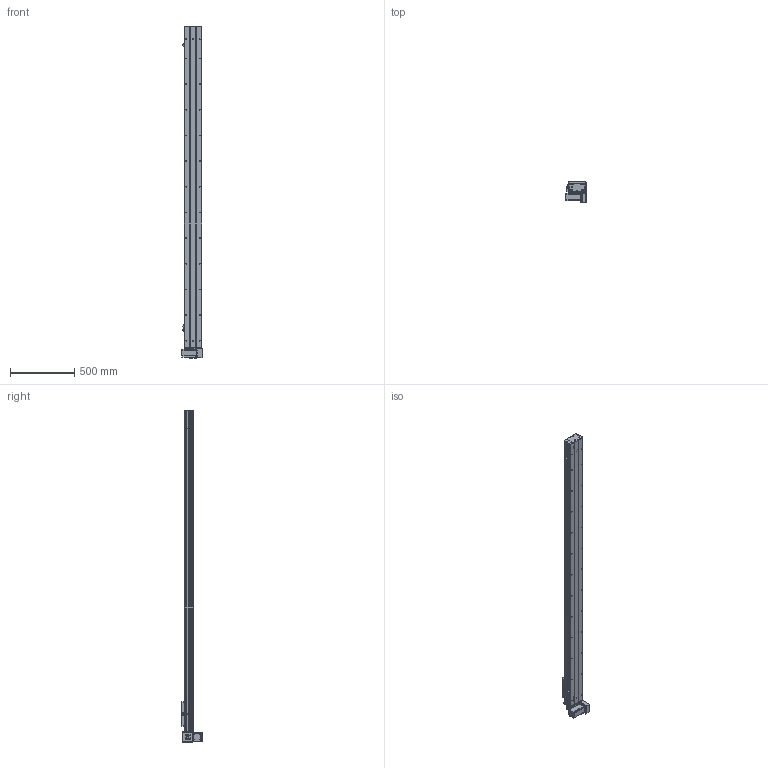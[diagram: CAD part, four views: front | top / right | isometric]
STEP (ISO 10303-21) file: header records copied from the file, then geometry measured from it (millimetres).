
FILE_DESCRIPTION (( 'STEP AP203' ), '1' );
FILE_NAME ('Y135CB-D90-S2200-BM-P400W.STEP', '2020-02-19T01:46:02', ( '微软用户' ), ( '微软中国' ), 'SwSTEP 2.0', 'SolidWorks 2017', '' );
FILE_SCHEMA (( 'CONFIG_CONTROL_DESIGN' ));
Length unit declared in the file: millimetre
Products named in the file (18): san松下电机400不带刹车----; 00B-俋欶BM--; 5CB --掛极耜裔啣-; Y10B-耜蚾蟀諉啣----; C-詩湍揤踡え-陔; Y135CB-耜裔; Y135CB-D90-S2200-BM-P400W; 135CB--詩湍-CE; 135CB---遴掛极.-; Y100-135俋离換覜ん--; 35CB---喘謫眊楊擘啣; Y135C-陔俋离換覜結え-; 0B-埴倛裔啣; 5C--俋欶; 0B-源倛裔啣; C-雄赽釱--; 0B-萇儂楊擘啣; Y10B--々湍喘謫眊--666
Assembly tree (21 placements, depth 2):
  Y135CB-D90-S2200-BM-P400W
    Y135CB-耜裔
    135CB---遴掛极.-
    35CB---喘謫眊楊擘啣
    0B-埴倛裔啣
    0B-源倛裔啣
    0B-萇儂楊擘啣
    san松下电机400不带刹车----
    5CB --掛极耜裔啣-  x2
    C-詩湍揤踡え-陔  x2
    135CB--詩湍-CE
    Y100-135俋离換覜ん--  x3
    Y135C-陔俋离換覜結え-
    5C--俋欶
    C-雄赽釱--
    Y10B--々湍喘謫眊--666
    00B-俋欶BM--
    Y10B-耜蚾蟀諉啣----
Bounding box: 157 x 163.3 x 2588 mm (x, y, z)
Volume: 7502746.2 mm3; surface area: 2967246.7 mm2
Topology: 21 solids, 21 shells, 969 faces, 2635 edges, 1746 vertices
Faces by surface type: cylinder 497, plane 456, cone 16
Entity records: 30561 total; most frequent: DIRECTION 5079, CARTESIAN_POINT 5076, ORIENTED_EDGE 4746, EDGE_CURVE 2373, AXIS2_PLACEMENT_3D 1861, VERTEX_POINT 1574, LINE 1357, VECTOR 1357
